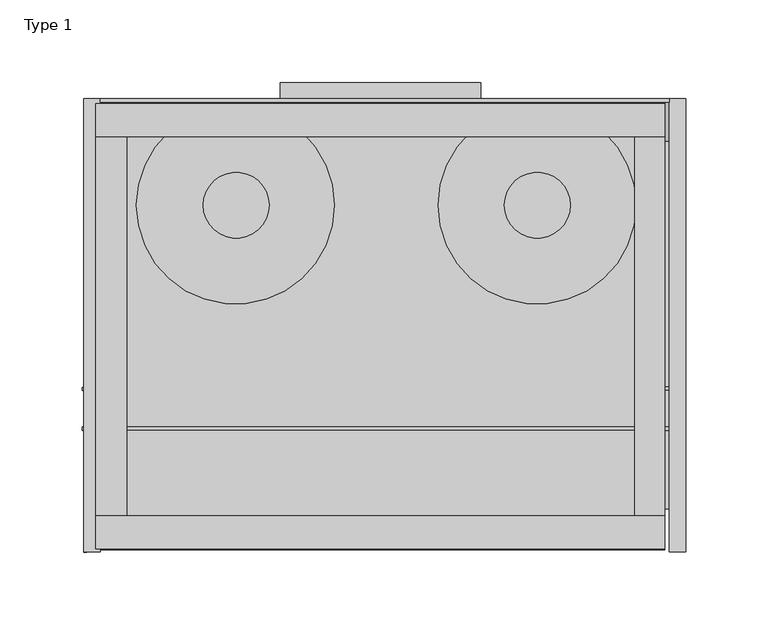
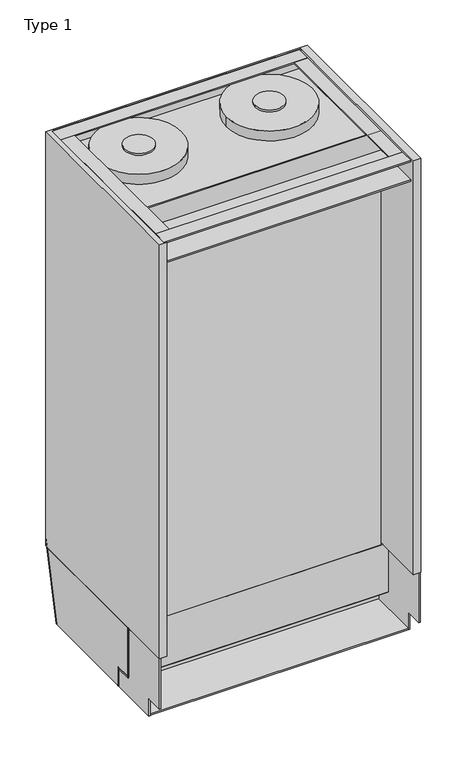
"""IFC4 building model written with IfcOpenShell, lengths in millimetres: proxy geometry, UE001 - Carel_Humidifier_Wallmount_BIM_Model : Type 1."""

from ifc_helpers import new_model, si_unit, point, frame, frame_2d, origin, place, context, project, spatial, polyline, circle_curve, ellipse_curve, trimmed, segment, composite_curve, outline, extrude, source, transform, mapped, element, save
from ifc_brep_helpers import plane_surface, extruded_surface, advanced_brep


def type_1_44b7102c(model_context):
    return source(origin(), model_context, "Body", "SolidModel", [
        extrude(outline(composite_curve([segment(trimmed(circle_curve(frame_2d((-90.9720559, 211.426212)), 20.0), [point((-110.9720559, 211.426212))], [point((-70.9720559, 211.426212))], False, "CARTESIAN"), True, "CONTINUOUS"), segment(trimmed(circle_curve(frame_2d((-90.9720559, 211.426212)), 20.0), [point((-70.9720559, 211.426212))], [point((-110.9720559, 211.426212))], False, "CARTESIAN"), True, "CONTINUOUS")], self_intersect=False)), frame((0.0, 0.0, 1098.1445814), z_axis=(0.0, 0.0, 1.0), x_axis=(1.0, 0.0, 0.0)), (0.0, 0.0, 1.0), 2.8183678),
        extrude(outline(composite_curve([segment(trimmed(circle_curve(frame_2d((91.6156471, 211.426212)), 20.0), [point((71.6156471, 211.426212))], [point((111.6156471, 211.426212))], False, "CARTESIAN"), True, "CONTINUOUS"), segment(trimmed(circle_curve(frame_2d((91.6156471, 211.426212)), 20.0), [point((111.6156471, 211.426212))], [point((71.6156471, 211.426212))], False, "CARTESIAN"), True, "CONTINUOUS")], self_intersect=False)), frame((0.0, 0.0, 1098.1445814), z_axis=(0.0, 0.0, 1.0), x_axis=(1.0, 0.0, 0.0)), (0.0, 0.0, 1.0), 2.8183678),
        extrude(outline(composite_curve([segment(trimmed(circle_curve(frame_2d((91.4514251, 211.426212)), 60.0), [point((151.4514251, 211.426212))], [point((31.4514251, 211.426212))], False, "CARTESIAN"), True, "CONTINUOUS"), segment(trimmed(circle_curve(frame_2d((91.4514251, 211.426212)), 60.0), [point((31.4514251, 211.426212))], [point((151.4514251, 211.426212))], False, "CARTESIAN"), True, "CONTINUOUS")], self_intersect=False)), frame((0.0, 0.0, 1083.4905184), z_axis=(0.0, 0.0, 1.0), x_axis=(1.0, 0.0, 0.0)), (0.0, 0.0, 1.0), 14.6540629),
        extrude(outline(composite_curve([segment(trimmed(circle_curve(frame_2d((-91.4514251, 211.426212)), 60.0), [point((-151.4514251, 211.426212))], [point((-31.4514251, 211.426212))], False, "CARTESIAN"), True, "CONTINUOUS"), segment(trimmed(circle_curve(frame_2d((-91.4514251, 211.426212)), 60.0), [point((-31.4514251, 211.426212))], [point((-151.4514251, 211.426212))], False, "CARTESIAN"), True, "CONTINUOUS")], self_intersect=False)), frame((0.0, 0.0, 1083.4905184), z_axis=(0.0, 0.0, 1.0), x_axis=(1.0, 0.0, 0.0)), (0.0, 0.0, 1.0), 14.6540629),
        extrude(outline(polyline([(276.1569067, 453.8519826), (276.1569067, 447.030123), (265.1148659, 443.0111489), (266.7599805, 450.4317811), (276.1569067, 453.8519826)])), frame((-150.8801784, 0.0, 0.0), z_axis=(1.0, 0.0, 0.0), x_axis=(0.0, 1.0, 0.0)), (0.0, 0.0, 1.0), 20.8809272),
        extrude(outline(polyline([(0.0, -3.8339423), (0.0, 0.0), (27.228015, 0.0), (27.228015, -3.8339423), (0.0, -3.8339423)])), frame((-154.1935427, 262.4162981, 430.8386958), z_axis=(0.0, 0.21643961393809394, 0.9762960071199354), x_axis=(1.0, 0.0, 0.0)), (0.0, 0.0, 1.0), 27.0024194),
        extrude(outline(polyline([(-181.4793267, 250.0980987), (179.42978, 250.0980987), (179.42978, 27.1773855), (-181.4793267, 27.1773855), (-181.4793267, 250.0980987)])), frame((0.0, 0.0, 400.0), z_axis=(0.0, 0.0, 1.0), x_axis=(1.0, 0.0, 0.0)), (0.0, 0.0, 1.0), 2.0),
        extrude(outline(composite_curve([segment(polyline([(519.4577065, 46.4496427), (519.4577065, -53.9639815)]), True, "CONTINUOUS"), segment(trimmed(circle_curve(frame_2d((499.4577065, -14.649782)), 44.1090272), [point((519.4577065, -53.9639815))], [point((479.4577065, -53.9639815))], False, "CARTESIAN"), True, "CONTINUOUS"), segment(polyline([(479.4577065, -53.9639815), (479.4577065, 46.4496427)]), True, "CONTINUOUS"), segment(trimmed(circle_curve(frame_2d((499.4577065, 7.1354432)), 44.1090272), [point((479.4577065, 46.4496427))], [point((519.4577065, 46.4496427))], False, "CARTESIAN"), True, "CONTINUOUS")], self_intersect=False)), frame((0.0, 276.0364506, 0.0), z_axis=(0.0, 1.0, 0.0), x_axis=(0.0, 0.0, 1.0)), (0.0, 0.0, 1.0), 9.9309076),
        extrude(outline(polyline([(529.4577065, 57.1707378), (529.4577065, -64.1734154), (469.4577065, -64.1734154), (469.4577065, 57.1707378), (529.4577065, 57.1707378)]), holes=[composite_curve([segment(trimmed(circle_curve(frame_2d((499.4577065, 7.1354432)), 49.1090272), [point((524.4577065, 49.4047767))], [point((474.4577065, 49.4047767))], True, "CARTESIAN"), True, "CONTINUOUS"), segment(polyline([(474.4577065, 49.4047767), (474.4577065, -56.9191155)]), True, "CONTINUOUS"), segment(trimmed(circle_curve(frame_2d((499.4577065, -14.649782)), 49.1090272), [point((474.4577065, -56.9191155))], [point((524.4577065, -56.9191155))], True, "CARTESIAN"), True, "CONTINUOUS"), segment(polyline([(524.4577065, -56.9191155), (524.4577065, 49.4047767)]), True, "CONTINUOUS")], self_intersect=False)]), frame((0.0, 276.0364506, 0.0), z_axis=(0.0, 1.0, 0.0), x_axis=(0.0, 0.0, 1.0)), (0.0, 0.0, 1.0), 9.9309076),
        extrude(outline(polyline([(168.7469486, 273.651872), (168.7469486, 2.3641482), (-176.2612875, 2.3641482), (-176.2612875, 273.651872), (168.7469486, 273.651872)])), frame((0.0, 0.0, 1081.4750398), z_axis=(0.0, 0.0, 1.0), x_axis=(1.0, 0.0, 0.0)), (0.0, 0.0, 1.0), 2.0154786),
        extrude(outline(polyline([(-176.2612875, 253.036335), (-176.2612875, 273.036335), (168.7469486, 273.036335), (168.7469486, 253.036335), (-176.2612875, 253.036335)])), frame((0.0, 0.0, 1109.8966395), z_axis=(0.0, 0.0, 1.0), x_axis=(1.0, 0.0, 0.0)), (0.0, 0.0, 1.0), 2.1033605),
        extrude(outline(polyline([(-176.2612875, 3.036335), (-176.2612875, 23.036335), (168.7469486, 23.036335), (168.7469486, 3.036335), (-176.2612875, 3.036335)])), frame((0.0, 0.0, 1109.8966395), z_axis=(0.0, 0.0, 1.0), x_axis=(1.0, 0.0, 0.0)), (0.0, 0.0, 1.0), 2.1033605),
        extrude(outline(polyline([(-157.3180842, 23.036335), (-176.2612875, 23.036335), (-176.2612875, 253.036335), (-157.3180842, 253.036335), (-157.3180842, 23.036335)])), frame((0.0, 0.0, 1104.1981623), z_axis=(0.0, 0.0, 1.0), x_axis=(1.0, 0.0, 0.0)), (0.0, 0.0, 1.0), 7.8083825),
        extrude(outline(polyline([(150.60469, 23.036335), (150.60469, 253.036335), (168.7469486, 253.036335), (168.7469486, 23.036335), (150.60469, 23.036335)])), frame((0.0, 0.0, 1109.8966395), z_axis=(0.0, 0.0, 1.0), x_axis=(1.0, 0.0, 0.0)), (0.0, 0.0, 1.0), 2.0244427),
        extrude(outline(polyline([(176.68893, 100.9740846), (176.68893, 99.0602683), (-184.2032688, 99.0602683), (-184.2032688, 100.9740846), (176.68893, 100.9740846)])), frame((0.0, 0.0, 400.0), z_axis=(0.0, 0.0, 1.0), x_axis=(1.0, 0.0, 0.0)), (0.0, 0.0, 1.0), 2.0),
        extrude(outline(polyline([(179.42978, 99.0602683), (179.42978, 76.9953596), (-183.5288733, 76.9953596), (-183.5288733, 99.0602683), (179.42978, 99.0602683)])), frame((0.0, 0.0, 425.3090696), z_axis=(0.0, 0.0, 1.0), x_axis=(1.0, 0.0, 0.0)), (0.0, 0.0, 1.0), 2.0817444),
        advanced_brep(
        [(171.4793447, 273.9636447, 500.0), (171.4793447, 273.9636447, 1112.0), (-173.5288914, 273.9636447, 1112.0), (-173.5288914, 273.9636447, 500.0), (31.4711086, 273.9636447, 1037.0), (-33.5288914, 273.9636447, 1037.0), (171.4793447, 276.0364506, 500.0), (-173.5288914, 276.0364506, 500.0), (-173.5288914, 276.0364506, 1112.0), (171.4793447, 276.0364506, 1112.0), (31.4711086, 276.0364506, 1037.0), (-33.5288914, 276.0364506, 1037.0)],
        [
            (0, 1),
            (1, 2),
            (2, 3),
            (3, 0),
            (4, 5, ellipse_curve(frame((-1.0288914, 273.9636447, 1037.0), z_axis=(0.0, 1.0, 0.0), x_axis=(-1.0, 0.0, 0.0)), 32.5, 10.0)),
            (5, 4, ellipse_curve(frame((-1.0288914, 273.9636447, 1037.0), z_axis=(0.0, 1.0, 0.0), x_axis=(1.0, 0.0, 0.0)), 32.5, 10.0)),
            (6, 7),
            (7, 8),
            (8, 9),
            (9, 6),
            (10, 11, ellipse_curve(frame((-1.0288914, 276.0364506, 1037.0), z_axis=(0.0, -1.0, 0.0), x_axis=(1.0, 0.0, 0.0)), 32.5, 10.0)),
            (11, 10, ellipse_curve(frame((-1.0288914, 276.0364506, 1037.0), z_axis=(0.0, -1.0, 0.0), x_axis=(-1.0, 0.0, 0.0)), 32.5, 10.0)),
            (3, 7),
            (6, 0),
            (2, 8),
            (1, 9),
            (4, 10),
            (11, 5),
        ],
        [
            plane_surface(frame((171.4793447, 273.9636447, 601.0000128), z_axis=(0.0, -1.0, 0.0), x_axis=(0.0, 0.0, 1.0))),
            plane_surface(frame((171.4793447, 276.0364506, 601.0000128), z_axis=(0.0, 1.0, 0.0), x_axis=(0.0, 0.0, -1.0))),
            plane_surface(frame((-173.5288914, 273.9636447, 500.0), z_axis=(0.0, 0.0, -1.0), x_axis=(0.0, 1.0, 0.0))),
            plane_surface(frame((-173.5288914, 273.9636447, 1112.0), z_axis=(-1.0, 0.0, 0.0), x_axis=(0.0, 1.0, 0.0))),
            plane_surface(frame((171.4793447, 273.9636447, 1112.0), z_axis=(0.0, 0.0, 1.0), x_axis=(0.0, 1.0, 0.0))),
            plane_surface(frame((171.4793447, 273.9636447, 500.0), z_axis=(1.0, 0.0, 0.0), x_axis=(0.0, 1.0, 0.0))),
            extruded_surface(trimmed(ellipse_curve(frame((-1.0288914, 214.5728036, 1037.0), z_axis=(0.0, 1.0, 0.0), x_axis=(-1.0, 0.0, 0.0)), 32.5, 10.0), [point((31.4711086, 214.5728036, 1037.0))], [point((-33.5288914, 214.5728036, 1037.0))], True, "CARTESIAN"), (0.0, -2.0728057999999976, 0.0), 2.0728057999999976),
            extruded_surface(trimmed(ellipse_curve(frame((-1.0288914, 214.5728036, 1037.0), z_axis=(0.0, 1.0, 0.0), x_axis=(1.0, 0.0, 0.0)), 32.5, 10.0), [point((-33.5288914, 214.5728036, 1037.0))], [point((31.4711086, 214.5728036, 1037.0))], True, "CARTESIAN"), (0.0, -2.0728057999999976, 0.0), 2.0728057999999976),
        ],
        [
            (0, [[1, 2, 3, 4], [5, 6]]),
            (1, [[7, 8, 9, 10], [11, 12]]),
            (2, [[-4, 13, -7, 14]]),
            (3, [[-3, 15, -8, -13]]),
            (4, [[-2, 16, -9, -15]]),
            (5, [[-1, -14, -10, -16]]),
            (6, [[-5, 17, -12, 18]]),
            (7, [[-6, -18, -11, -17]]),
        ],
    ),
        advanced_brep(
        [(30.9036292, 273.9636447, 1037.0), (-33.0288914, 273.9636447, 1037.0), (30.9036292, 276.0364506, 1037.0), (-33.0288914, 276.0364506, 1037.0)],
        [
            (0, 1, ellipse_curve(frame((-1.0626311, 273.9636447, 1037.0), z_axis=(0.0, -1.0, 0.0), x_axis=(1.0, 0.0, 0.0)), 31.9662603, 9.5628849)),
            (1, 0, ellipse_curve(frame((-1.0626311, 273.9636447, 1037.0), z_axis=(0.0, -1.0, 0.0), x_axis=(-1.0, 0.0, 0.0)), 31.9662603, 9.4535919)),
            (2, 3, ellipse_curve(frame((-1.0626311, 276.0364506, 1037.0), z_axis=(0.0, 1.0, 0.0), x_axis=(-1.0, 0.0, 0.0)), 31.9662603, 9.4535919)),
            (3, 2, ellipse_curve(frame((-1.0626311, 276.0364506, 1037.0), z_axis=(0.0, 1.0, 0.0), x_axis=(1.0, 0.0, 0.0)), 31.9662603, 9.5628849)),
            (0, 2),
            (3, 1),
        ],
        [
            plane_surface(frame((171.4793447, 273.9636447, 601.0000128), z_axis=(0.0, -1.0, 0.0), x_axis=(0.0, 0.0, 1.0))),
            plane_surface(frame((171.4793447, 276.0364506, 601.0000128), z_axis=(0.0, 1.0, 0.0), x_axis=(0.0, 0.0, -1.0))),
            extruded_surface(trimmed(ellipse_curve(frame((-1.0626311, 214.5728036, 1037.0), z_axis=(0.0, -1.0, 0.0), x_axis=(1.0, 0.0, 0.0)), 31.9662603, 9.5628849), [point((30.9036292, 214.5728036, 1037.0))], [point((-33.0288914, 214.5728036, 1037.0))], True, "CARTESIAN"), (0.0, -2.0728057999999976, 0.0), 2.0728057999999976),
            extruded_surface(trimmed(ellipse_curve(frame((-1.0626311, 214.5728036, 1037.0), z_axis=(0.0, -1.0, 0.0), x_axis=(-1.0, 0.0, 0.0)), 31.9662603, 9.4535919), [point((-33.0288914, 214.5728036, 1037.0))], [point((30.9036292, 214.5728036, 1037.0))], True, "CARTESIAN"), (0.0, -2.0728057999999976, 0.0), 2.0728057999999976),
        ],
        [
            (0, [[1, 2]]),
            (1, [[3, 4]]),
            (2, [[-1, 5, -4, 6]]),
            (3, [[-2, -6, -3, -5]]),
        ],
    ),
        extrude(outline(polyline([(-176.2612875, 77.0363508), (168.7469486, 77.0363508), (168.7469486, 75.0), (-176.2612875, 75.0), (-176.2612875, 77.0363508)])), frame((0.0, 0.0, 500.0), z_axis=(0.0, 0.0, 1.0), x_axis=(1.0, 0.0, 0.0)), (0.0, 0.0, 1.0), 612.0),
        extrude(outline(polyline([(-184.2117227, 76.9953596), (178.7469306, 76.9953596), (178.7469306, 75.0), (-184.2117227, 75.0), (-184.2117227, 76.9953596)])), frame((0.0, 0.0, 427.3908139), z_axis=(0.0, 0.0, 1.0), x_axis=(1.0, 0.0, 0.0)), (0.0, 0.0, 1.0), 72.6091861),
        extrude(outline(polyline([(-183.5288733, 0.9999876), (-183.5288733, 276.0), (-173.5288914, 276.0), (-173.5288914, 0.9999876), (-183.5288733, 0.9999876)])), frame((0.0, 0.0, 500.0), z_axis=(0.0, 0.0, 1.0), x_axis=(1.0, 0.0, 0.0)), (0.0, 0.0, 1.0), 612.0),
        extrude(outline(polyline([(-183.5288733, 101.1773855), (181.4793267, 101.1773855), (181.4793267, 99.0602683), (-183.5288733, 99.0602683), (-183.5288733, 101.1773855)])), frame((0.0, 0.0, 400.0), z_axis=(0.0, 0.0, 1.0), x_axis=(1.0, 0.0, 0.0)), (0.0, 0.0, 1.0), 27.3908139),
        extrude(outline(polyline([(276.0364506, 510.7561389), (251.4824086, 400.0000128), (250.0980987, 400.0000128), (274.6521407, 510.7561389), (276.0364506, 510.7561389)])), frame((-183.5206798, 0.0, 0.0), z_axis=(1.0, 0.0, 0.0), x_axis=(0.0, 1.0, 0.0)), (0.0, 0.0, 1.0), 362.9335519),
        extrude(outline(polyline([(26.4, 400.0000128), (26.4, 425.4000128), (1.0, 425.4000128), (1.0, 500.0), (272.2675622, 500.0), (250.0980987, 400.0000128), (26.4, 400.0000128)])), frame((-183.5288733, 0.0, 0.0), z_axis=(1.0, 0.0, 0.0), x_axis=(0.0, 1.0, 0.0)), (0.0, 0.0, 1.0), 2.0495467),
        extrude(outline(polyline([(181.4793267, 276.0364506), (181.4793267, 0.9999876), (171.4793447, 0.9999876), (171.4793447, 276.0364506), (181.4793267, 276.0364506)])), frame((0.0, 0.0, 500.0), z_axis=(0.0, 0.0, 1.0), x_axis=(1.0, 0.0, 0.0)), (0.0, 0.0, 1.0), 612.0),
        extrude(outline(polyline([(27.7641482, 399.9090696), (27.7641482, 425.3090696), (2.3641482, 425.3090696), (2.3641482, 500.0), (273.651872, 500.0), (251.4622469, 399.9090696), (27.7641482, 399.9090696)])), frame((179.42978, 0.0, 0.0), z_axis=(1.0, 0.0, 0.0), x_axis=(0.0, 1.0, 0.0)), (0.0, 0.0, 1.0), 2.0495467),
    ])


if __name__ == "__main__":
    model = new_model("IFC4")
    model_context = context("Model", 3, world=origin())
    ifc_project = project(units=[si_unit("LENGTHUNIT", "METRE", prefix="MILLI")], contexts=[model_context])
    site = spatial("IfcSite", under=ifc_project)
    building = spatial("IfcBuilding", under=site)
    placement = place(None, origin())
    type_1_shape = type_1_44b7102c(model_context)
    element("IfcBuildingElementProxy", 1, Name="UE001 - Carel_Humidifier_Wallmount_BIM_Model : Type 1", ObjectType="UE001 - Carel_Humidifier_Wallmount_BIM_Model : Type 1", at=placement, inside=building, context=model_context, shape_type="MappedRepresentation", body=[
        mapped(type_1_shape, transform((0.0, 0.0, 0.0), x_axis=(1.0, 0.0, 0.0), y_axis=(0.0, 1.0, 0.0), z_axis=(0.0, 0.0, 1.0))),
    ])
    save(model, "model.ifc")
